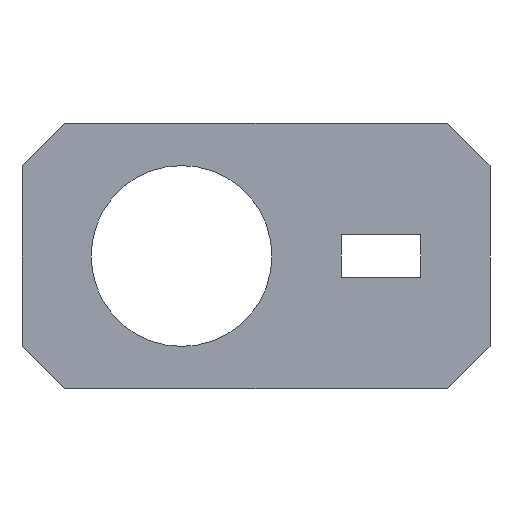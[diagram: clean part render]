
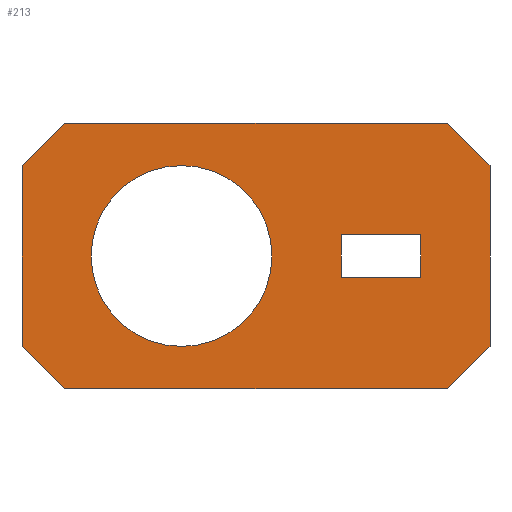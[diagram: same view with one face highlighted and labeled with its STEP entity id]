
A CAD part, front view. The second image highlights one B-rep face of the part: STEP entity #213.
In plain terms, the highlighted planar face has unit normal (0, -1, 0).
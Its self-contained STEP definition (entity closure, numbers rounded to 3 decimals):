
#32 = VERTEX_POINT('',#33);
#33 = CARTESIAN_POINT('',(4.,-4.,0.));
#39 = EDGE_CURVE('',#32,#40,#42,.T.);
#40 = VERTEX_POINT('',#41);
#41 = CARTESIAN_POINT('',(40.,-4.,0.));
#42 = LINE('',#43,#44);
#43 = CARTESIAN_POINT('',(0.,-4.,0.));
#44 = VECTOR('',#45,1.);
#45 = DIRECTION('',(1.,0.,0.));
#171 = EDGE_CURVE('',#32,#172,#174,.T.);
#172 = VERTEX_POINT('',#173);
#173 = CARTESIAN_POINT('',(0.,-4.,4.));
#174 = LINE('',#175,#176);
#175 = CARTESIAN_POINT('',(4.328,-4.,-0.328));
#176 = VECTOR('',#177,1.);
#177 = DIRECTION('',(-0.707,0.,0.707));
#195 = EDGE_CURVE('',#40,#196,#198,.T.);
#196 = VERTEX_POINT('',#197);
#197 = CARTESIAN_POINT('',(44.,-4.,4.));
#198 = LINE('',#199,#200);
#199 = CARTESIAN_POINT('',(39.578,-4.,-0.422));
#200 = VECTOR('',#201,1.);
#201 = DIRECTION('',(0.707,0.,0.707));
#213 = ADVANCED_FACE('',(#214,#257,#268),#302,.F.);
#214 = FACE_BOUND('',#215,.F.);
#215 = EDGE_LOOP('',(#216,#217,#218,#226,#234,#242,#250,#256));
#216 = ORIENTED_EDGE('',*,*,#39,.F.);
#217 = ORIENTED_EDGE('',*,*,#171,.T.);
#218 = ORIENTED_EDGE('',*,*,#219,.F.);
#219 = EDGE_CURVE('',#220,#172,#222,.T.);
#220 = VERTEX_POINT('',#221);
#221 = CARTESIAN_POINT('',(0.,-4.,21.));
#222 = LINE('',#223,#224);
#223 = CARTESIAN_POINT('',(0.,-4.,25.));
#224 = VECTOR('',#225,1.);
#225 = DIRECTION('',(0.,0.,-1.));
#226 = ORIENTED_EDGE('',*,*,#227,.F.);
#227 = EDGE_CURVE('',#228,#220,#230,.T.);
#228 = VERTEX_POINT('',#229);
#229 = CARTESIAN_POINT('',(4.,-4.,25.));
#230 = LINE('',#231,#232);
#231 = CARTESIAN_POINT('',(4.328,-4.,25.328));
#232 = VECTOR('',#233,1.);
#233 = DIRECTION('',(-0.707,0.,-0.707));
#234 = ORIENTED_EDGE('',*,*,#235,.F.);
#235 = EDGE_CURVE('',#236,#228,#238,.T.);
#236 = VERTEX_POINT('',#237);
#237 = CARTESIAN_POINT('',(40.,-4.,25.));
#238 = LINE('',#239,#240);
#239 = CARTESIAN_POINT('',(44.,-4.,25.));
#240 = VECTOR('',#241,1.);
#241 = DIRECTION('',(-1.,0.,0.));
#242 = ORIENTED_EDGE('',*,*,#243,.F.);
#243 = EDGE_CURVE('',#244,#236,#246,.T.);
#244 = VERTEX_POINT('',#245);
#245 = CARTESIAN_POINT('',(44.,-4.,21.));
#246 = LINE('',#247,#248);
#247 = CARTESIAN_POINT('',(39.578,-4.,25.422));
#248 = VECTOR('',#249,1.);
#249 = DIRECTION('',(-0.707,0.,0.707));
#250 = ORIENTED_EDGE('',*,*,#251,.F.);
#251 = EDGE_CURVE('',#196,#244,#252,.T.);
#252 = LINE('',#253,#254);
#253 = CARTESIAN_POINT('',(44.,-4.,0.));
#254 = VECTOR('',#255,1.);
#255 = DIRECTION('',(0.,0.,1.));
#256 = ORIENTED_EDGE('',*,*,#195,.F.);
#257 = FACE_BOUND('',#258,.F.);
#258 = EDGE_LOOP('',(#259));
#259 = ORIENTED_EDGE('',*,*,#260,.T.);
#260 = EDGE_CURVE('',#261,#261,#263,.T.);
#261 = VERTEX_POINT('',#262);
#262 = CARTESIAN_POINT('',(23.5,-4.,12.5));
#263 = CIRCLE('',#264,8.5);
#264 = AXIS2_PLACEMENT_3D('',#265,#266,#267);
#265 = CARTESIAN_POINT('',(15.,-4.,12.5));
#266 = DIRECTION('',(0.,-1.,0.));
#267 = DIRECTION('',(1.,0.,0.));
#268 = FACE_BOUND('',#269,.T.);
#269 = EDGE_LOOP('',(#270,#280,#288,#296));
#270 = ORIENTED_EDGE('',*,*,#271,.T.);
#271 = EDGE_CURVE('',#272,#274,#276,.T.);
#272 = VERTEX_POINT('',#273);
#273 = CARTESIAN_POINT('',(30.,-4.,14.5));
#274 = VERTEX_POINT('',#275);
#275 = CARTESIAN_POINT('',(37.5,-4.,14.5));
#276 = LINE('',#277,#278);
#277 = CARTESIAN_POINT('',(30.,-4.,14.5));
#278 = VECTOR('',#279,1.);
#279 = DIRECTION('',(1.,0.,0.));
#280 = ORIENTED_EDGE('',*,*,#281,.T.);
#281 = EDGE_CURVE('',#274,#282,#284,.T.);
#282 = VERTEX_POINT('',#283);
#283 = CARTESIAN_POINT('',(37.5,-4.,10.5));
#284 = LINE('',#285,#286);
#285 = CARTESIAN_POINT('',(37.5,-4.,14.5));
#286 = VECTOR('',#287,1.);
#287 = DIRECTION('',(0.,0.,-1.));
#288 = ORIENTED_EDGE('',*,*,#289,.T.);
#289 = EDGE_CURVE('',#282,#290,#292,.T.);
#290 = VERTEX_POINT('',#291);
#291 = CARTESIAN_POINT('',(30.,-4.,10.5));
#292 = LINE('',#293,#294);
#293 = CARTESIAN_POINT('',(37.5,-4.,10.5));
#294 = VECTOR('',#295,1.);
#295 = DIRECTION('',(-1.,0.,0.));
#296 = ORIENTED_EDGE('',*,*,#297,.T.);
#297 = EDGE_CURVE('',#290,#272,#298,.T.);
#298 = LINE('',#299,#300);
#299 = CARTESIAN_POINT('',(30.,-4.,10.5));
#300 = VECTOR('',#301,1.);
#301 = DIRECTION('',(0.,0.,1.));
#302 = PLANE('',#303);
#303 = AXIS2_PLACEMENT_3D('',#304,#305,#306);
#304 = CARTESIAN_POINT('',(21.81,-4.,12.5));
#305 = DIRECTION('',(0.,1.,0.));
#306 = DIRECTION('',(0.,0.,1.));
